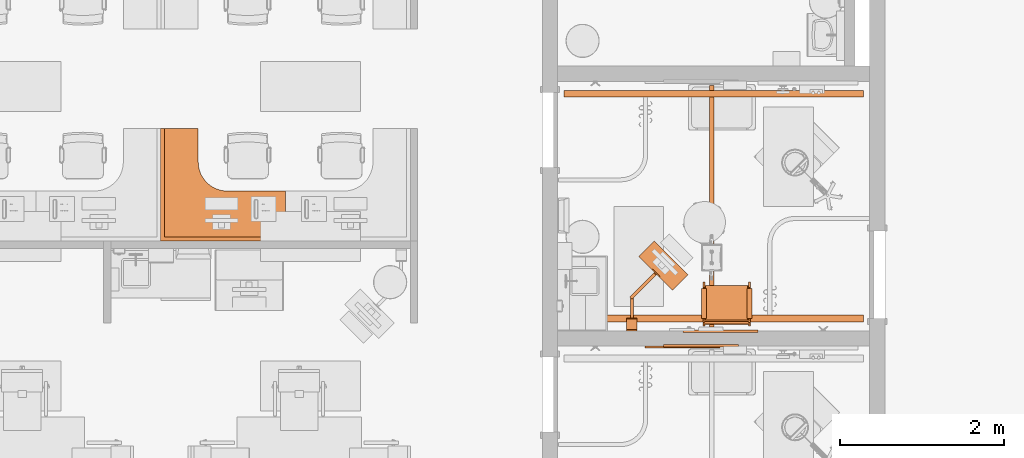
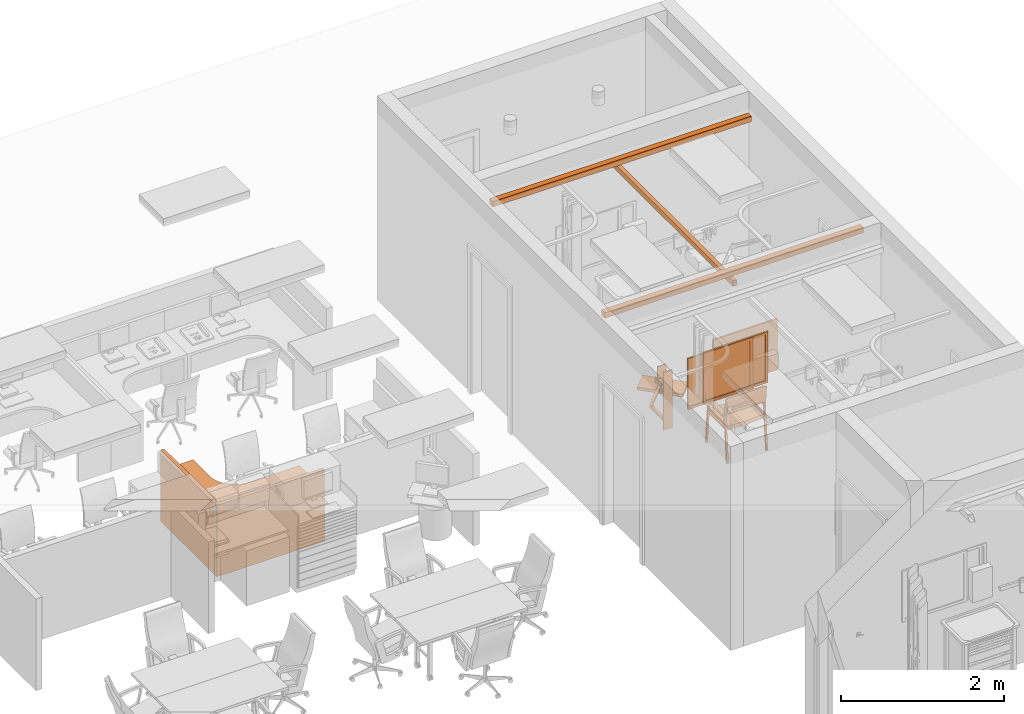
# One storey, part 63 of 142: 8 proxies.
"""IFC2X3 building model written with IfcOpenShell, lengths in feet."""

from ifc_helpers import new_model, entity, si_unit, converted_unit, derived_unit, direction, frame, frame_2d, origin, origin_2d_with_axis, place, context, subcontext, project, spatial, polyline, circle_curve, parameter, trimmed, segment, composite_curve, rectangle, circle, outline, extrude, source, transform, mapped, type_object, type_shapes, element, save


model = new_model("IFC2X3")

# Units and contexts
model_context = context("Model", 3, precision=0.0001, world=origin(), true_north=direction((6.12303176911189e-17, 1.0)))
body_context = subcontext(model_context, "Body", "Model", "MODEL_VIEW")
ifc_project = project(units=[converted_unit("LENGTHUNIT", "FOOT", entity("IfcRatioMeasure", 0.3048), si_unit("LENGTHUNIT", "METRE"), dimensions=[1, 0, 0, 0, 0, 0, 0]), converted_unit("AREAUNIT", "SQUARE FOOT", entity("IfcRatioMeasure", 0.09290304), si_unit("AREAUNIT", "SQUARE_METRE"), dimensions=[2, 0, 0, 0, 0, 0, 0]), converted_unit("VOLUMEUNIT", "CUBIC FOOT", entity("IfcRatioMeasure", 0.028316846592), si_unit("VOLUMEUNIT", "CUBIC_METRE"), dimensions=[3, 0, 0, 0, 0, 0, 0]), converted_unit("PLANEANGLEUNIT", "DEGREE", entity("IfcRatioMeasure", 0.0174532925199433), si_unit("PLANEANGLEUNIT", "RADIAN"), dimensions=[0, 0, 0, 0, 0, 0, 0]), si_unit("MASSUNIT", "GRAM", prefix="KILO"), derived_unit("MASSDENSITYUNIT", [(si_unit("MASSUNIT", "GRAM", prefix="KILO"), 1), (si_unit("LENGTHUNIT", "METRE"), -3)]), si_unit("TIMEUNIT", "SECOND"), si_unit("FREQUENCYUNIT", "HERTZ"), si_unit("THERMODYNAMICTEMPERATUREUNIT", "DEGREE_CELSIUS"), derived_unit("THERMALTRANSMITTANCEUNIT", [(si_unit("MASSUNIT", "GRAM", prefix="KILO"), 1), (si_unit("THERMODYNAMICTEMPERATUREUNIT", "KELVIN"), -1), (si_unit("TIMEUNIT", "SECOND"), -3)]), derived_unit("VOLUMETRICFLOWRATEUNIT", [(si_unit("LENGTHUNIT", "METRE"), 3), (si_unit("TIMEUNIT", "SECOND"), -1)]), si_unit("ELECTRICCURRENTUNIT", "AMPERE"), si_unit("ELECTRICVOLTAGEUNIT", "VOLT"), si_unit("POWERUNIT", "WATT"), si_unit("FORCEUNIT", "NEWTON"), si_unit("ILLUMINANCEUNIT", "LUX"), si_unit("LUMINOUSFLUXUNIT", "LUMEN"), si_unit("LUMINOUSINTENSITYUNIT", "CANDELA"), derived_unit("USERDEFINED", [(si_unit("MASSUNIT", "GRAM", prefix="KILO"), -1), (si_unit("LENGTHUNIT", "METRE"), -2), (si_unit("TIMEUNIT", "SECOND"), 3), (si_unit("LUMINOUSFLUXUNIT", "LUMEN"), 1)]), derived_unit("LINEARVELOCITYUNIT", [(si_unit("LENGTHUNIT", "METRE"), 1), (si_unit("TIMEUNIT", "SECOND"), -1)]), si_unit("PRESSUREUNIT", "PASCAL"), derived_unit("USERDEFINED", [(si_unit("LENGTHUNIT", "METRE"), -2), (si_unit("MASSUNIT", "GRAM", prefix="KILO"), 1), (si_unit("TIMEUNIT", "SECOND"), -2)])], contexts=[model_context])

# Site, building, storey, space
site_placement = place(None, origin())
site = spatial("IfcSite", under=ifc_project, at=site_placement, Name="Default", CompositionType="ELEMENT")
building_placement = place(site_placement, origin())
building = spatial("IfcBuilding", under=site, at=building_placement, Name="OUTPATIENT / PACT CLINIC (Ch. 265)", CompositionType="ELEMENT")
storey_placement = place(building_placement, origin())
storey = spatial("IfcBuildingStorey", under=building, at=storey_placement, Name="LEVEL 1", CompositionType="ELEMENT", Elevation=0.0)
space_1_placement = place(storey_placement, origin())
space_1 = spatial("IfcSpace", under=storey, at=space_1_placement, Name="WRTM1", CompositionType="ELEMENT", InteriorOrExteriorSpace="INTERNAL")

# Proxies
building_element_proxy_type_1 = type_object("IfcBuildingElementProxyType", Name="U0075 - Workstation, L-Shaped, Freestanding, 60x54", PredefinedType="NOTDEFINED")
shared_shape_1 = source(origin(), body_context, "Body", "SweptSolid", [
    extrude(rectangle(XDim=0.166666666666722, YDim=2.0, at=frame_2d((-1.3836154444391e-14, 0.0), x_axis=(1.0, 0.0))), frame((0.0833333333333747, -1.0, 0.0), z_axis=(0.0, 0.0, 1.0), x_axis=(-1.0, 0.0, 0.0)), (0.0, 0.0, 1.0), 2.375),
    extrude(rectangle(XDim=0.166666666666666, YDim=1.5, at=frame_2d((0.0, -4.44089209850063e-16), x_axis=(1.0, 0.0))), frame((4.25000000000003, -4.41666666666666, 0.0), z_axis=(0.0, 0.0, 1.0), x_axis=(0.0, 1.0, 0.0)), (0.0, 0.0, 1.0), 2.37499999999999),
    extrude(outline(composite_curve([segment(polyline([(-2.23809523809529, -2.3095238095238), (2.7619047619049, -2.3095238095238)]), True, "CONTINUOUS"), segment(polyline([(2.7619047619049, -2.3095238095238), (2.7619047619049, -0.309523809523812)]), True, "CONTINUOUS"), segment(polyline([(2.7619047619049, -0.309523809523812), (0.428571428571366, -0.309523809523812)]), True, "CONTINUOUS"), segment(trimmed(circle_curve(frame_2d((0.428571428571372, 0.857142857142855), x_axis=(1.0, 0.0)), 1.16666666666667), [parameter(180.0)], [parameter(270.0)], True, "PARAMETER"), False, "CONTINUOUS"), segment(polyline([(-0.738095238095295, 0.857142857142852), (-0.738095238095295, 2.19047619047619)]), True, "CONTINUOUS"), segment(polyline([(-0.738095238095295, 2.19047619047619), (-2.23809523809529, 2.19047619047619)]), True, "CONTINUOUS"), segment(polyline([(-2.23809523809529, 2.19047619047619), (-2.23809523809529, -2.3095238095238)]), True, "CONTINUOUS")], self_intersect=False)), frame((2.76190476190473, -2.30952380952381, 2.37499999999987), z_axis=(0.0, 0.0, 1.0), x_axis=(-1.0, 0.0, 0.0)), (0.0, 0.0, 1.0), 0.125),
    extrude(outline(polyline([(-2.16666666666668, -2.16666666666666), (2.83333333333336, -2.16666666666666), (2.83333333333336, -0.16666666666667), (-0.666666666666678, -0.16666666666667), (-0.666666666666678, 2.33333333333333), (-2.16666666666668, 2.33333333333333), (-2.16666666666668, -2.16666666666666)])), frame((2.83333333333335, -2.16666666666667, 2.37499999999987), z_axis=(0.0, 0.0, 1.0), x_axis=(-1.0, 0.0, 0.0)), (0.0, 0.0, 1.0), 0.125),
    extrude(rectangle(XDim=5.00000000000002, YDim=0.166666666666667, at=origin_2d_with_axis()), frame((2.49999999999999, -0.075000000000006, 0.0), z_axis=(0.0, 0.0, 1.0), x_axis=(-1.0, 0.0, 0.0)), (0.0, 0.0, 1.0), 3.5),
    extrude(rectangle(XDim=4.50000000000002, YDim=0.166666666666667, at=frame_2d((0.0, 4.44089209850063e-16), x_axis=(1.0, 0.0))), frame((4.92500000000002, -2.25000000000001, 0.0), z_axis=(0.0, 0.0, 1.0), x_axis=(0.0, 1.0, 0.0)), (0.0, 0.0, 1.0), 3.5),
])
type_shapes(building_element_proxy_type_1, [shared_shape_1])
proxy_1_placement = place(space_1_placement, frame((424.359283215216, -889.420491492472, 0.0), z_axis=(0.0, 0.0, 1.0), x_axis=(-1.0, 0.0, 0.0)))
element("IfcBuildingElementProxy", 1, at=proxy_1_placement, inside=space_1, type_object=building_element_proxy_type_1, Name="U0075 - Workstation, L-Shaped, Freestanding, 60x54:U0075 - Workstation, L-Shaped, Freestanding, 60x54", ObjectType="U0075 - Workstation, L-Shaped, Freestanding, 60x54", context=body_context, shape_type="MappedRepresentation", body=[
    mapped(shared_shape_1, transform((0.0, 0.0, 0.0), scale=1.0)),
])
building_element_proxy_type_2 = type_object("IfcBuildingElementProxyType", Name="F3025 - Board, Bulletin, Wood Framed", PredefinedType="NOTDEFINED")
shared_shape_2 = source(origin(), body_context, "Body", "SweptSolid", [
    extrude(rectangle(XDim=0.0416666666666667, YDim=2.74999999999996, at=origin_2d_with_axis()), frame((0.0, -0.020833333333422, 0.124999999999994), z_axis=(0.0, 0.0, 1.0), x_axis=(0.0, 1.0, 0.0)), (0.0, 0.0, 1.0), 2.25000000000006),
    extrude(outline(polyline([(-1.49999999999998, -1.25), (1.49999999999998, -1.25), (1.49999999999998, 1.25), (-1.49999999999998, 1.25), (-1.49999999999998, -1.25)]), holes=[polyline([(-1.37499999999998, -1.125), (-1.37499999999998, 1.12500000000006), (1.37499999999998, 1.12500000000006), (1.37499999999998, -1.125), (-1.37499999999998, -1.125)])]), frame((0.0, -0.0833333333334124, 1.25), z_axis=(0.0, 1.0, 0.0), x_axis=(-1.0, 0.0, 0.0)), (0.0, 0.0, 1.0), 0.0833333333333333),
])
type_shapes(building_element_proxy_type_2, [shared_shape_2])
proxy_2_placement = place(storey_placement, frame((441.004568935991, -893.576638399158, 4.0)))
element("IfcBuildingElementProxy", 2, at=proxy_2_placement, inside=storey, type_object=building_element_proxy_type_2, Name="F3025 - Board, Bulletin, Wood Framed:F3025 - Board, Bulletin, Wood Framed", ObjectType="F3025 - Board, Bulletin, Wood Framed", context=body_context, shape_type="MappedRepresentation", body=[
    mapped(shared_shape_2, transform((0.0, 0.0, 0.0), scale=1.0)),
])
proxy_3_placement = place(storey_placement, frame((441.773085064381, -893.076638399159, 4.0), z_axis=(0.0, 0.0, 1.0), x_axis=(-1.0, 0.0, 0.0)))
element("IfcBuildingElementProxy", 3, at=proxy_3_placement, inside=storey, type_object=building_element_proxy_type_2, Name="F3025 - Board, Bulletin, Wood Framed:F3025 - Board, Bulletin, Wood Framed", ObjectType="F3025 - Board, Bulletin, Wood Framed", context=body_context, shape_type="MappedRepresentation", body=[
    mapped(shared_shape_2, transform((0.0, 0.0, 0.0), scale=1.0)),
])
proxy_4_placement = place(storey_placement, frame((441.004568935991, -893.576878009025, 4.0)))
element("IfcBuildingElementProxy", 4, at=proxy_4_placement, inside=storey, type_object=building_element_proxy_type_2, Name="F3025 - Board, Bulletin, Wood Framed:F3025 - Board, Bulletin, Wood Framed", ObjectType="F3025 - Board, Bulletin, Wood Framed", context=body_context, shape_type="MappedRepresentation", body=[
    mapped(shared_shape_2, transform((0.0, 0.0, 0.0), scale=1.0)),
])

# Space
space_2_placement = place(storey_placement, origin())
space_2 = spatial("IfcSpace", under=storey, at=space_2_placement, Name="EXPA1", CompositionType="ELEMENT", InteriorOrExteriorSpace="INTERNAL")

# Proxy
building_element_proxy_type_3 = type_object("IfcBuildingElementProxyType", Name="M1803 - Workstation, Computer, Wall Mounted", PredefinedType="NOTDEFINED")
shared_shape_3 = source(origin(), body_context, "Body", "SweptSolid", [
    extrude(circle(Radius=0.104166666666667, at=frame_2d((1.0547118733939e-15, 3.336446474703e-16), x_axis=(1.0, 0.0))), frame((-0.0810226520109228, -1.34888430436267, 0.333333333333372), z_axis=(0.707106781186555, -0.70710678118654, 0.0), x_axis=(0.0, 0.0, 1.0)), (0.0, 0.0, 1.0), 0.125000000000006),
    extrude(outline(composite_curve([segment(polyline([(0.0520833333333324, -0.592708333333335), (0.0520833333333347, 0.644791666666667)]), True, "CONTINUOUS"), segment(polyline([(0.0520833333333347, 0.644791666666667), (-0.0520833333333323, 0.644791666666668)]), True, "CONTINUOUS"), segment(polyline([(-0.0520833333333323, 0.644791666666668), (-0.0520833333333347, -0.696875)]), True, "CONTINUOUS"), segment(trimmed(circle_curve(frame_2d((0.0520833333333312, -0.696875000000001), x_axis=(1.0, 0.0)), 0.104166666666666), [parameter(89.9999999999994)], [parameter(180.0)], True, "PARAMETER"), False, "CONTINUOUS")], self_intersect=False)), frame((-0.0624999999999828, -0.711458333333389, 0.281250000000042), z_axis=(-1.0, 0.0, 0.0), x_axis=(0.0, 0.0, 1.0)), (0.0, 0.0, -1.0), 0.125000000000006),
    extrude(outline(composite_curve([segment(polyline([(0.0520833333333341, -0.651041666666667), (0.0520833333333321, 0.598958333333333)]), True, "CONTINUOUS"), segment(polyline([(0.0520833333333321, 0.598958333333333), (-0.0520833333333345, 0.598958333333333)]), True, "CONTINUOUS"), segment(polyline([(-0.0520833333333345, 0.598958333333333), (-0.0520833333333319, -0.546875)]), True, "CONTINUOUS"), segment(trimmed(circle_curve(frame_2d((-0.0520833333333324, -0.651041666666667), x_axis=(1.0, 0.0)), 0.104166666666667), [parameter(1.01777749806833e-13)], [parameter(90.0000000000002)], True, "PARAMETER"), False, "CONTINUOUS")], self_intersect=False)), frame((-0.452990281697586, -1.89762862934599, 0.385416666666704), z_axis=(0.707106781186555, -0.70710678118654, 0.0), x_axis=(0.0, 0.0, 1.0)), (0.0, 0.0, -1.0), 0.125000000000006),
    extrude(outline(polyline([(-0.0729166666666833, -0.95833333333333), (0.0729166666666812, -0.95833333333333), (0.0729166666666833, 0.95833333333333), (-0.0729166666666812, 0.95833333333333), (-0.0729166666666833, -0.95833333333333)]), holes=[polyline([(-0.05208333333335, -0.937499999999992), (-0.052083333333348, 0.937499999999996), (0.0520833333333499, 0.937499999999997), (0.0520833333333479, -0.937499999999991), (-0.05208333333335, -0.937499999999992)])]), frame((-1.5747857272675, -2.93103572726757, 0.0729166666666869), z_axis=(0.707106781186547, 0.707106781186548, 0.0), x_axis=(0.0, 0.0, -1.0)), (0.0, 0.0, 1.0), 0.883333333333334),
    extrude(rectangle(XDim=0.0666666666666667, YDim=0.416666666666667, at=origin_2d_with_axis()), frame((0.0, -0.0333333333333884, 0.0), z_axis=(0.0, 0.0, 1.0), x_axis=(0.0, 1.0, 0.0)), (0.0, 0.0, 1.0), 0.11949518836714),
    extrude(outline(polyline([(-0.208333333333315, -0.0270833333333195), (-0.0625000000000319, -0.0270833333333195), (-0.0625000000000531, 0.014583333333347), (0.0625000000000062, 0.014583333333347), (0.0625000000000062, -0.0270833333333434), (0.208333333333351, -0.0270833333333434), (0.208333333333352, 0.0395833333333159), (-0.208333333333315, 0.0395833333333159), (-0.208333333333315, -0.0270833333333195)])), frame((0.0, -0.0395833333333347, 0.119495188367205)), (0.0, 0.0, 1.0), 2.0471714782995),
    extrude(outline(polyline([(-0.194444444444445, 0.125), (0.430555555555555, 0.125), (0.430555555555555, 0.166666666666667), (-0.236111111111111, 0.166666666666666), (-0.236111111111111, -0.291666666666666), (-0.194444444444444, -0.291666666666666), (-0.194444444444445, 0.125)])), frame((-0.208333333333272, -0.358333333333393, 2.40277777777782), z_axis=(1.0, 0.0, 0.0), x_axis=(0.0, 0.0, 1.0)), (0.0, 0.0, 1.0), 0.416666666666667),
    extrude(rectangle(XDim=0.0416666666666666, YDim=0.416666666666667, at=frame_2d((4.16333634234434e-17, -5.55111512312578e-17), x_axis=(1.0, 0.0))), frame((-0.964906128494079, -2.3211561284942, 0.503601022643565), z_axis=(0.0, 0.0, 1.0), x_axis=(0.707106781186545, 0.70710678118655, 0.0)), (0.0, 0.0, 1.0), 0.267232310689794),
    extrude(rectangle(XDim=0.125000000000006, YDim=0.0416666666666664, at=frame_2d((-1.94289029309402e-16, 1.16226472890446e-16), x_axis=(1.0, 0.0))), frame((-0.935443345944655, -2.29169334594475, 0.0), z_axis=(0.0, 0.0, 1.0), x_axis=(-0.707106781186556, 0.70710678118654, 0.0)), (0.0, 0.0, 1.0), 0.666666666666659),
    extrude(rectangle(XDim=0.0666666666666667, YDim=0.416666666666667, at=origin_2d_with_axis()), frame((0.0, -0.0333333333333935, 2.16666666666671), z_axis=(0.0, 0.0, 1.0), x_axis=(0.0, 1.0, 0.0)), (0.0, 0.0, 1.0), 0.666666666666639),
])
type_shapes(building_element_proxy_type_3, [shared_shape_3])
proxy_5_placement = place(space_2_placement, frame((438.228934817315, -893.024555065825, 2.83333333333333), z_axis=(0.0, 0.0, 1.0), x_axis=(-1.0, 0.0, 0.0)))
element("IfcBuildingElementProxy", 5, at=proxy_5_placement, inside=space_2, type_object=building_element_proxy_type_3, Name="M1803 - Workstation, Computer, Wall Mounted1:M1803 - Workstation, Computer, Wall Mounted", ObjectType="M1803 - Workstation, Computer, Wall Mounted", context=body_context, shape_type="MappedRepresentation", body=[
    mapped(shared_shape_3, transform((0.0, 0.0, 0.0), scale=1.0)),
])

# Space
space_3_placement = place(storey_placement, origin())
space_3 = spatial("IfcSpace", under=storey, at=space_3_placement, Name="EXPA1", CompositionType="ELEMENT", InteriorOrExteriorSpace="INTERNAL")

# Proxies
building_element_proxy_type_4 = type_object("IfcBuildingElementProxyType", Name="F3025 - Board, Bulletin, Wood Framed", PredefinedType="NOTDEFINED")
shared_shape_4 = source(origin(), body_context, "Body", "SweptSolid", [
    extrude(rectangle(XDim=0.0416666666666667, YDim=2.74999999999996, at=origin_2d_with_axis()), frame((0.0, -0.020833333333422, 0.124999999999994), z_axis=(0.0, 0.0, 1.0), x_axis=(0.0, 1.0, 0.0)), (0.0, 0.0, 1.0), 2.25000000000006),
    extrude(outline(polyline([(-1.49999999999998, -1.25), (1.49999999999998, -1.25), (1.49999999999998, 1.25), (-1.49999999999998, 1.25), (-1.49999999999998, -1.25)]), holes=[polyline([(-1.37499999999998, -1.125), (-1.37499999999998, 1.12500000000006), (1.37499999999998, 1.12500000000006), (1.37499999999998, -1.125), (-1.37499999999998, -1.125)])]), frame((0.0, -0.0833333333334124, 1.25), z_axis=(0.0, 1.0, 0.0), x_axis=(-1.0, 0.0, 0.0)), (0.0, 0.0, 1.0), 0.0833333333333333),
])
type_shapes(building_element_proxy_type_4, [shared_shape_4])
proxy_6_placement = place(space_3_placement, frame((440.265393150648, -893.628851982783, 4.0)))
element("IfcBuildingElementProxy", 6, at=proxy_6_placement, inside=space_3, type_object=building_element_proxy_type_4, Name="F3025 - Board, Bulletin, Wood Framed1:F3025 - Board, Bulletin, Wood Framed", ObjectType="F3025 - Board, Bulletin, Wood Framed", context=body_context, shape_type="MappedRepresentation", body=[
    mapped(shared_shape_4, transform((0.0, 0.0, 0.0), scale=1.0)),
])
building_element_proxy_type_5 = type_object("IfcBuildingElementProxyType", Name="F0205 - Chair, Side With Arms", PredefinedType="NOTDEFINED")
shared_shape_5 = source(origin(), body_context, "Body", "SweptSolid", [
    extrude(outline(polyline([(-0.104007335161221, -0.374369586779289), (-0.027711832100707, -0.374369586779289), (-0.0197350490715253, -0.338348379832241), (0.00592434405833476, -0.182113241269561), (0.0162560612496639, -0.135457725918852), (0.0457826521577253, -0.00212284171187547), (0.0856087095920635, 0.177721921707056), (0.112798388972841, 0.276572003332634), (0.120257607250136, 0.307674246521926), (0.129202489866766, 0.415216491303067), (0.045581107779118, 0.433734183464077), (0.0167028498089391, 0.395704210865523), (-0.0364083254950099, 0.222671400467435), (-0.125070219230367, -0.177704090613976), (-0.13682888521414, -0.27538652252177), (-0.128352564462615, -0.36942248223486), (-0.104007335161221, -0.374369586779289)])), frame((-0.891159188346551, -0.878769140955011, 2.73061112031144), z_axis=(0.0, 1.0, 0.0), x_axis=(0.991475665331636, 0.0, -0.130291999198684)), (0.0, 0.0, 1.0), 1.75919993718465),
    extrude(outline(polyline([(0.0907668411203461, -0.842703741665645), (0.261538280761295, -0.842703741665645), (0.265730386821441, -0.773999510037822), (0.127479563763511, 0.0287496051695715), (-0.0923338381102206, 0.813085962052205), (-0.125373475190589, 0.873420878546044), (-0.279635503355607, 0.800086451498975), (-0.270660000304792, 0.752608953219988), (-0.0560029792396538, -0.0126173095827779), (0.0784907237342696, -0.795927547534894), (0.0907668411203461, -0.842703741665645)])), frame((-0.90556950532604, 0.000822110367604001, 1.62079321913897), z_axis=(1.0, 0.0, 0.0), x_axis=(0.0, -0.219936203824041, -0.975514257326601)), (0.0, 0.0, 1.0), 1.47211210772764),
    extrude(outline(polyline([(-0.552031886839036, -0.234422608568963), (-0.484734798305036, -0.234422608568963), (-0.233837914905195, -0.160903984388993), (0.324339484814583, 0.0422559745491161), (0.453697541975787, 0.101150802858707), (0.564536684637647, 0.176717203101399), (0.51204038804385, 0.250193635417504), (0.420212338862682, 0.216770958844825), (0.254858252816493, 0.145732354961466), (-0.246233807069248, -0.0366502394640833), (-0.436544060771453, -0.0986810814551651), (-0.576302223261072, -0.167740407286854), (-0.552031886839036, -0.234422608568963)])), frame((-0.1510824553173, -1.00916916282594, 2.22827697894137), z_axis=(0.0, 1.0, 0.0), x_axis=(0.939692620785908, 0.0, 0.34202014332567)), (0.0, 0.0, 1.0), 0.198199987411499),
    extrude(outline(polyline([(-0.525375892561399, -0.221085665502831), (-0.458078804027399, -0.221085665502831), (-0.207181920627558, -0.147567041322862), (0.350995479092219, 0.0555929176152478), (0.480353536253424, 0.114487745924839), (0.591192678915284, 0.190054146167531), (0.551062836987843, 0.246221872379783), (0.114629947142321, 0.0873732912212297), (0.281514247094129, 0.159069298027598), (-0.219577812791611, -0.0233132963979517), (-0.409888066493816, -0.0853441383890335), (-0.549646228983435, -0.154403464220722), (-0.525375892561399, -0.221085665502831)])), frame((-0.180692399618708, 0.814330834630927, 2.23169271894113), z_axis=(0.0, 1.0, 0.0), x_axis=(0.939692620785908, 0.0, 0.34202014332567)), (0.0, 0.0, 1.0), 0.196499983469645),
    extrude(outline(polyline([(0.0166377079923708, -0.666422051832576), (0.099971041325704, -0.666422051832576), (-0.0172324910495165, 0.673220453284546), (-0.0993762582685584, 0.659623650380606), (0.0166377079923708, -0.666422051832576)])), frame((-0.182442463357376, -0.954369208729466, 1.61480726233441), z_axis=(0.0, 1.0, 0.0), x_axis=(0.0871557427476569, 0.0, -0.996194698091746)), (0.0, 0.0, 1.0), 0.0833333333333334),
    extrude(outline(polyline([(0.0166377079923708, -0.666422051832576), (0.099971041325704, -0.666422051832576), (-0.0172324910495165, 0.673220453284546), (-0.0993762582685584, 0.659623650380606), (0.0166377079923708, -0.666422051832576)])), frame((-0.182442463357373, 0.867430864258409, 1.61480726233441), z_axis=(0.0, 1.0, 0.0), x_axis=(0.0871557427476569, 0.0, -0.996194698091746)), (0.0, 0.0, 1.0), 0.0833333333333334),
    extrude(outline(polyline([(0.811855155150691, -1.61770011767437), (0.895188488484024, -1.61770011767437), (0.71143329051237, 0.489199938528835), (0.806416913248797, 1.46713632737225), (0.751033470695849, 1.46713632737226), (0.656855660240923, 0.571094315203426), (-0.516612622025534, 0.571094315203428), (-0.653571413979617, 0.441277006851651), (-0.728375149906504, 0.0391907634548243), (-0.871611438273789, -1.61770011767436), (-0.791571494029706, -1.61770011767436), (-0.646611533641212, 0.0391998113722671), (-0.578172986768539, 0.407071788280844), (-0.496044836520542, 0.48919993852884), (0.649788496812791, 0.489199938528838), (0.811855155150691, -1.61770011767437)])), frame((-0.163768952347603, -0.954369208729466, 1.61770011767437), z_axis=(0.0, 1.0, 0.0), x_axis=(-1.0, 0.0, 0.0)), (0.0, 0.0, 1.0), 0.0885709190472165),
    extrude(outline(polyline([(0.811855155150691, -1.61770011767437), (0.895188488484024, -1.61770011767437), (0.71143329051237, 0.489199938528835), (0.806416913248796, 1.46713632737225), (0.751033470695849, 1.46713632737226), (0.656855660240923, 0.571094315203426), (-0.516612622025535, 0.571094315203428), (-0.653571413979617, 0.441277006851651), (-0.728375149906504, 0.0391907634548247), (-0.871611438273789, -1.61770011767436), (-0.791571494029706, -1.61770011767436), (-0.646611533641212, 0.0391998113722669), (-0.578172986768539, 0.407071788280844), (-0.496044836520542, 0.48919993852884), (0.649788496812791, 0.489199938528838), (0.811855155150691, -1.61770011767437)])), frame((-0.1637689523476, 0.867430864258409, 1.61770011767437), z_axis=(0.0, 1.0, 0.0), x_axis=(-1.0, 0.0, 0.0)), (0.0, 0.0, 1.0), 0.0885709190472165),
])
type_shapes(building_element_proxy_type_5, [shared_shape_5])
proxy_7_placement = place(space_2_placement, frame((442.025809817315, -891.769346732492, 0.0), z_axis=(0.0, 0.0, 1.0), x_axis=(0.0, 1.0, 0.0)))
element("IfcBuildingElementProxy", 7, at=proxy_7_placement, inside=space_2, type_object=building_element_proxy_type_5, Name="F0205 - Chair, Side With Arms:F0205 - Chair, Side With Arms", ObjectType="F0205 - Chair, Side With Arms", context=body_context, shape_type="MappedRepresentation", body=[
    mapped(shared_shape_5, transform((0.0, 0.0, 0.0), scale=1.0)),
])
building_element_proxy_type_6 = type_object("IfcBuildingElementProxyType", Name="A1203 Lift System, Overhead, Bariatric", PredefinedType="NOTDEFINED")
shared_shape_6 = source(origin(), body_context, "Body", "SweptSolid", [
    extrude(rectangle(XDim=9.66757011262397, YDim=0.190288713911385, at=frame_2d((0.0, -6.93889390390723e-18), x_axis=(1.0, 0.0))), frame((0.244358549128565, 0.0796819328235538, 8.63910761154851), z_axis=(0.0, 0.0, 1.0), x_axis=(-1.0, 0.0, 0.0)), (0.0, 0.0, 1.0), 0.249343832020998),
    extrude(rectangle(XDim=11.9998599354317, YDim=0.267060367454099, at=frame_2d((0.0, 4.44089209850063e-16), x_axis=(1.0, 0.0))), frame((4.74481027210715, 0.0, 8.99015748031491), z_axis=(0.0, 0.0, 1.0), x_axis=(0.0, 1.0, 0.0)), (0.0, 0.0, 1.0), 0.265748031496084),
    extrude(rectangle(XDim=11.9998599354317, YDim=0.267060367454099, at=frame_2d((0.0, 4.44089209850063e-16), x_axis=(1.0, 0.0))), frame((-4.25609317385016, 0.0, 8.99015748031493), z_axis=(0.0, 0.0, 1.0), x_axis=(0.0, 1.0, 0.0)), (0.0, 0.0, 1.0), 0.265748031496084),
])
type_shapes(building_element_proxy_type_6, [shared_shape_6])
proxy_8_placement = place(space_2_placement, frame((441.505047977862, -888.269365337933, 0.0), z_axis=(0.0, 0.0, 1.0), x_axis=(0.0, 1.0, 0.0)))
element("IfcBuildingElementProxy", 8, at=proxy_8_placement, inside=space_2, type_object=building_element_proxy_type_6, Name="A1203 Lift System, Overhead, Bariatric (Traverse):A1203 Lift System, Overhead, Bariatric", ObjectType="A1203 Lift System, Overhead, Bariatric", context=body_context, shape_type="MappedRepresentation", body=[
    mapped(shared_shape_6, transform((0.0, 0.0, 0.0), scale=1.0)),
])

save(model, "model.ifc")
